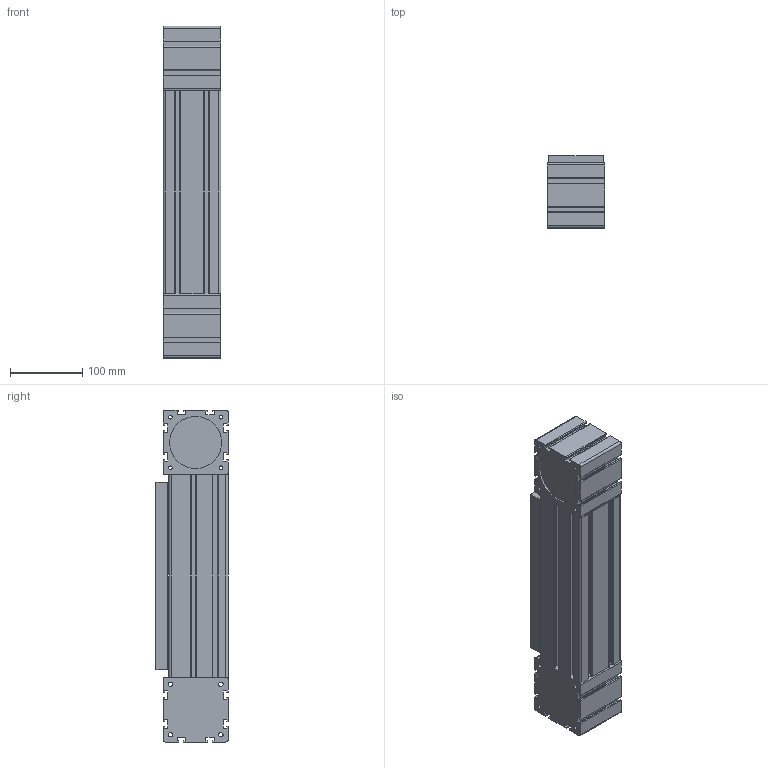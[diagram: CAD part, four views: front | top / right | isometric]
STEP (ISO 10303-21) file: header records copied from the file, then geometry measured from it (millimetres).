
FILE_DESCRIPTION((''),'2;1');
FILE_NAME('C:\Users\disegnatore3\Desktop\alberto_3d\MODELLI PER SITO WEB\ASSI\ML80\ML80-HPC\FORMATO CAD\ML80HPC.stp','2016-09-07T12:15:59',('disegnatore3'),(''),'Autodesk Inventor 2012','Autodesk Inventor 2012','');
FILE_SCHEMA(('AUTOMOTIVE_DESIGN { 1 0 10303 214 1 1 1 1 }'));
Length unit declared in the file: millimetre
Products named in the file (5): ML80HPC; PR80HP; CR80HP; TM80; TR80
Assembly tree (4 placements, depth 2):
  ML80HPC
    PR80HP
    CR80HP
    TM80
    TR80
Bounding box: 80 x 100 x 460 mm (x, y, z)
Volume: 3187626.3 mm3; surface area: 321593.2 mm2
Topology: 4 solids, 4 shells, 274 faces, 797 edges, 533 vertices
Faces by surface type: plane 178, cylinder 86, cone 10
Full cylindrical faces by diameter (mm): 5 x4, 6 x4, 6.647 x10, 72 x2
Entity records: 9003 total; most frequent: CARTESIAN_POINT 1553, ORIENTED_EDGE 1504, DIRECTION 1500, EDGE_CURVE 752, VECTOR 570, LINE 570, VERTEX_POINT 518, AXIS2_PLACEMENT_3D 465
